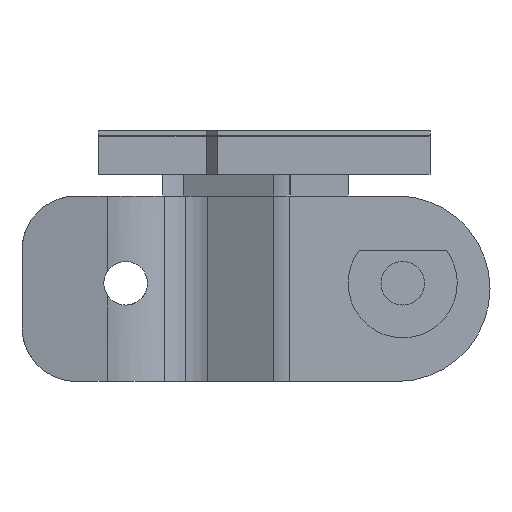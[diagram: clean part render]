
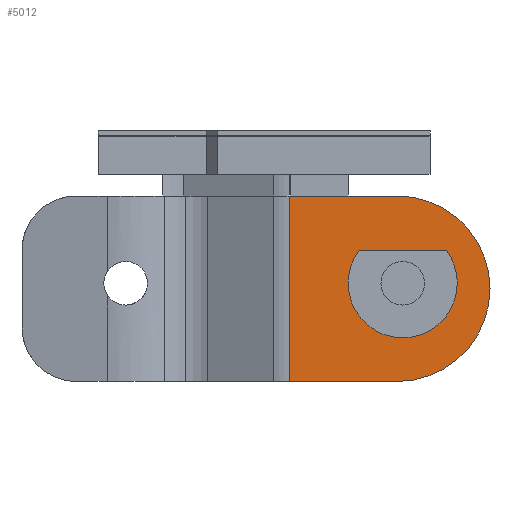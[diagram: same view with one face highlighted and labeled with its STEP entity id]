
A CAD part, left-side view. The second image highlights one B-rep face of the part: STEP entity #5012.
In plain terms, the highlighted planar face has unit normal (-1, 0, 0).
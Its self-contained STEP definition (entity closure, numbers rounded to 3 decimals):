
#1657 = CARTESIAN_POINT ( 'NONE',  ( 260.2, 168.8, -16. ) ) ;
#2200 = LINE ( 'NONE', #2203, #2206 ) ;
#2202 = DIRECTION ( 'NONE',  ( 0., 0., 1. ) ) ;
#2203 = CARTESIAN_POINT ( 'NONE',  ( 260.2, 178.716, -33. ) ) ;
#2206 = VECTOR ( 'NONE', #2202, 1000. ) ;
#2256 = CARTESIAN_POINT ( 'NONE',  ( 260.2, 168.3, -24. ) ) ;
#2257 = DIRECTION ( 'NONE',  ( 0., 1., 0. ) ) ;
#2264 = CIRCLE ( 'NONE', #2271, 2. ) ;
#2266 = DIRECTION ( 'NONE',  ( 1., 0., 0. ) ) ;
#2271 = AXIS2_PLACEMENT_3D ( 'NONE', #2256, #2266, #2257 ) ;
#2466 = DIRECTION ( 'NONE',  ( 0., 1., 0. ) ) ;
#2467 = DIRECTION ( 'NONE',  ( 1., 0., 0. ) ) ;
#2470 = AXIS2_PLACEMENT_3D ( 'NONE', #2482, #2467, #2466 ) ;
#2472 = FACE_BOUND ( 'NONE', #5000, .T. ) ;
#2475 = PLANE ( 'NONE',  #2470 ) ;
#2482 = CARTESIAN_POINT ( 'NONE',  ( 260.2, 160.3, -33. ) ) ;
#2484 = FACE_OUTER_BOUND ( 'NONE', #4979, .T. ) ;
#2764 = VECTOR ( 'NONE', #2778, 1000. ) ;
#2778 = DIRECTION ( 'NONE',  ( 0., -1., 0. ) ) ;
#2914 = CARTESIAN_POINT ( 'NONE',  ( 260.2, 160.3, -24.5 ) ) ;
#3078 = CARTESIAN_POINT ( 'NONE',  ( 260.2, 160.3, -16. ) ) ;
#3087 = CARTESIAN_POINT ( 'NONE',  ( 260.2, 178.716, -16. ) ) ;
#3088 = LINE ( 'NONE', #3078, #2764 ) ;
#3487 = CARTESIAN_POINT ( 'NONE',  ( 260.2, 168.8, -33. ) ) ;
#3645 = AXIS2_PLACEMENT_3D ( 'NONE', #3709, #3705, #3704 ) ;
#3654 = DIRECTION ( 'NONE',  ( 0., -1., 0. ) ) ;
#3656 = CIRCLE ( 'NONE', #3645, 2. ) ;
#3661 = CIRCLE ( 'NONE', #3679, 8.5 ) ;
#3663 = DIRECTION ( 'NONE',  ( 1., 0., 0. ) ) ;
#3664 = CARTESIAN_POINT ( 'NONE',  ( 260.2, 168.8, -24.5 ) ) ;
#3679 = AXIS2_PLACEMENT_3D ( 'NONE', #3664, #3663, #3654 ) ;
#3687 = CARTESIAN_POINT ( 'NONE',  ( 260.2, 168.3, -26. ) ) ;
#3704 = DIRECTION ( 'NONE',  ( 0., 1., 0. ) ) ;
#3705 = DIRECTION ( 'NONE',  ( 1., 0., 0. ) ) ;
#3709 = CARTESIAN_POINT ( 'NONE',  ( 260.2, 168.3, -24. ) ) ;
#3728 = CARTESIAN_POINT ( 'NONE',  ( 260.2, 168.3, -22. ) ) ;
#3980 = CARTESIAN_POINT ( 'NONE',  ( 260.2, 168.8, -24.5 ) ) ;
#3981 = CIRCLE ( 'NONE', #3984, 8.5 ) ;
#3982 = DIRECTION ( 'NONE',  ( 1., 0., 0. ) ) ;
#3983 = DIRECTION ( 'NONE',  ( 0., -1., 0. ) ) ;
#3984 = AXIS2_PLACEMENT_3D ( 'NONE', #3980, #3982, #3983 ) ;
#4897 = EDGE_CURVE ( 'NONE', #6134, #5970, #2200, .T. ) ;
#4932 = ORIENTED_EDGE ( 'NONE', *, *, #5975, .F. ) ;
#4936 = ORIENTED_EDGE ( 'NONE', *, *, #5994, .F. ) ;
#4950 = ORIENTED_EDGE ( 'NONE', *, *, #4999, .T. ) ;
#4955 = DIRECTION ( 'NONE',  ( 0., 1., 0. ) ) ;
#4962 = ORIENTED_EDGE ( 'NONE', *, *, #4897, .F. ) ;
#4963 = ORIENTED_EDGE ( 'NONE', *, *, #5842, .T. ) ;
#4972 = VECTOR ( 'NONE', #4955, 1000. ) ;
#4973 = CARTESIAN_POINT ( 'NONE',  ( 260.2, 160.3, -33. ) ) ;
#4975 = LINE ( 'NONE', #4973, #4972 ) ;
#4979 = EDGE_LOOP ( 'NONE', ( #4932, #4962, #5016, #4993, #4936 ) ) ;
#4993 = ORIENTED_EDGE ( 'NONE', *, *, #5884, .F. ) ;
#4999 = EDGE_CURVE ( 'NONE', #5838, #5843, #2264, .T. ) ;
#5000 = EDGE_LOOP ( 'NONE', ( #4963, #4950 ) ) ;
#5012 = ADVANCED_FACE ( 'NONE', ( #2472, #2484 ), #2475, .F. ) ;
#5016 = ORIENTED_EDGE ( 'NONE', *, *, #6099, .F. ) ;
#5221 = CARTESIAN_POINT ( 'NONE',  ( 260.2, 178.716, -33. ) ) ;
#5838 = VERTEX_POINT ( 'NONE', #3687 ) ;
#5842 = EDGE_CURVE ( 'NONE', #5843, #5838, #3656, .T. ) ;
#5843 = VERTEX_POINT ( 'NONE', #3728 ) ;
#5862 = VERTEX_POINT ( 'NONE', #3487 ) ;
#5884 = EDGE_CURVE ( 'NONE', #5901, #5862, #3661, .T. ) ;
#5901 = VERTEX_POINT ( 'NONE', #2914 ) ;
#5970 = VERTEX_POINT ( 'NONE', #3087 ) ;
#5975 = EDGE_CURVE ( 'NONE', #5970, #5981, #3088, .T. ) ;
#5981 = VERTEX_POINT ( 'NONE', #1657 ) ;
#5994 = EDGE_CURVE ( 'NONE', #5981, #5901, #3981, .T. ) ;
#6099 = EDGE_CURVE ( 'NONE', #5862, #6134, #4975, .T. ) ;
#6134 = VERTEX_POINT ( 'NONE', #5221 ) ;
